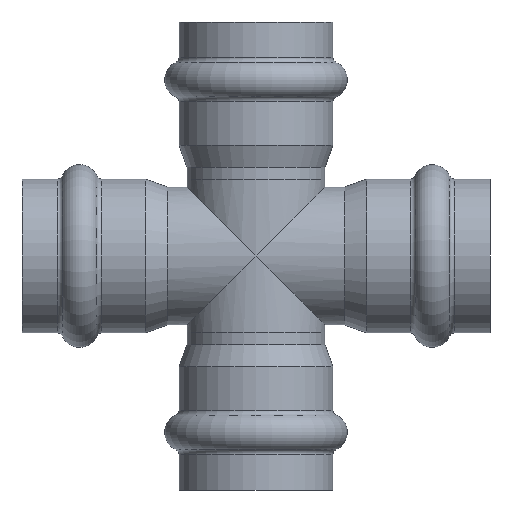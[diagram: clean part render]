
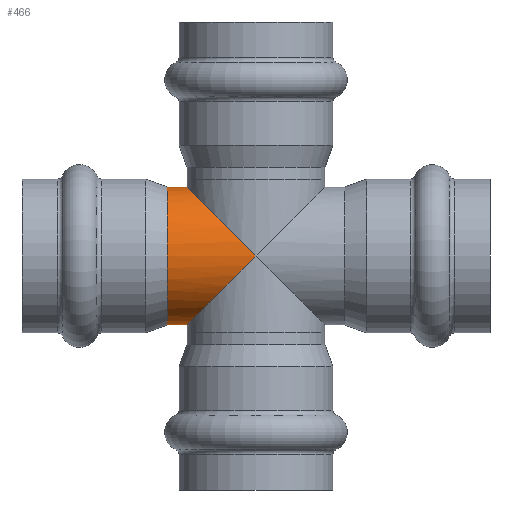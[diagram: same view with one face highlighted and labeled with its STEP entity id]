
A CAD part, left-side view. The second image highlights one B-rep face of the part: STEP entity #466.
In plain terms, the highlighted cylindrical face has radius 14 mm (diameter 28 mm), a full revolution.
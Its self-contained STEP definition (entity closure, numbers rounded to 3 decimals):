
#466=ADVANCED_FACE('',(#943,#945),#947,.T.);
#943=FACE_BOUND('',#944,.T.);
#944=EDGE_LOOP('',(#1342,#1343,#1344,#1345));
#945=FACE_OUTER_BOUND('',#946,.T.);
#946=EDGE_LOOP('',(#1346));
#947=CYLINDRICAL_SURFACE('',#948,14.);
#948=AXIS2_PLACEMENT_3D('',#949,#950,#951);
#949=CARTESIAN_POINT('',(0.,-18.022,0.));
#950=DIRECTION('',(0.,1.,0.));
#951=DIRECTION('',(0.,0.,1.));
#1342=ORIENTED_EDGE('',*,*,#1440,.F.);
#1343=ORIENTED_EDGE('',*,*,#1439,.F.);
#1344=ORIENTED_EDGE('',*,*,#1442,.F.);
#1345=ORIENTED_EDGE('',*,*,#1441,.F.);
#1346=ORIENTED_EDGE('',*,*,#1448,.F.);
#1439=EDGE_CURVE('',#1514,#1516,#1517,.F.);
#1440=EDGE_CURVE('',#1516,#1513,#1518,.F.);
#1441=EDGE_CURVE('',#1513,#1519,#1520,.F.);
#1442=EDGE_CURVE('',#1519,#1514,#1521,.F.);
#1448=EDGE_CURVE('',#1531,#1531,#1532,.T.);
#1513=VERTEX_POINT('',#1678);
#1514=VERTEX_POINT('',#1679);
#1516=VERTEX_POINT('',#1684);
#1517=(BOUNDED_CURVE()B_SPLINE_CURVE(3,
(#1685,#1686,#1687,#1688),
.UNSPECIFIED.,.F.,.F.)B_SPLINE_CURVE_WITH_KNOTS((4,4),
(0.,1.),
.UNSPECIFIED.)CURVE()GEOMETRIC_REPRESENTATION_ITEM()RATIONAL_B_SPLINE_CURVE((1.,
0.805,0.805,1.))REPRESENTATION_ITEM(''));
#1518=(BOUNDED_CURVE()B_SPLINE_CURVE(3,
(#1689,#1690,#1691,#1692),
.UNSPECIFIED.,.F.,.F.)B_SPLINE_CURVE_WITH_KNOTS((4,4),
(0.,1.),
.UNSPECIFIED.)CURVE()GEOMETRIC_REPRESENTATION_ITEM()RATIONAL_B_SPLINE_CURVE((1.,
0.805,0.805,1.))REPRESENTATION_ITEM(''));
#1519=VERTEX_POINT('',#1693);
#1520=(BOUNDED_CURVE()B_SPLINE_CURVE(3,
(#1694,#1695,#1696,#1697),
.UNSPECIFIED.,.F.,.F.)B_SPLINE_CURVE_WITH_KNOTS((4,4),
(0.,1.),
.UNSPECIFIED.)CURVE()GEOMETRIC_REPRESENTATION_ITEM()RATIONAL_B_SPLINE_CURVE((1.,
0.805,0.805,1.))REPRESENTATION_ITEM(''));
#1521=(BOUNDED_CURVE()B_SPLINE_CURVE(3,
(#1698,#1699,#1700,#1701),
.UNSPECIFIED.,.F.,.F.)B_SPLINE_CURVE_WITH_KNOTS((4,4),
(0.,1.),
.UNSPECIFIED.)CURVE()GEOMETRIC_REPRESENTATION_ITEM()RATIONAL_B_SPLINE_CURVE((1.,
0.805,0.805,1.))REPRESENTATION_ITEM(''));
#1531=VERTEX_POINT('',#1726);
#1532=CIRCLE('',#1727,14.);
#1678=CARTESIAN_POINT('',(14.,0.,0.));
#1679=CARTESIAN_POINT('',(-14.,0.,0.));
#1684=CARTESIAN_POINT('',(0.,14.,-14.));
#1685=CARTESIAN_POINT('',(0.,14.,-14.));
#1686=CARTESIAN_POINT('',(-8.201,14.,-14.));
#1687=CARTESIAN_POINT('',(-14.,8.201,-8.201));
#1688=CARTESIAN_POINT('',(-14.,0.,0.));
#1689=CARTESIAN_POINT('',(14.,0.,0.));
#1690=CARTESIAN_POINT('',(14.,8.201,-8.201));
#1691=CARTESIAN_POINT('',(8.201,14.,-14.));
#1692=CARTESIAN_POINT('',(0.,14.,-14.));
#1693=CARTESIAN_POINT('',(0.,14.,14.));
#1694=CARTESIAN_POINT('',(0.,14.,14.));
#1695=CARTESIAN_POINT('',(8.201,14.,14.));
#1696=CARTESIAN_POINT('',(14.,8.201,8.201));
#1697=CARTESIAN_POINT('',(14.,0.,0.));
#1698=CARTESIAN_POINT('',(-14.,0.,0.));
#1699=CARTESIAN_POINT('',(-14.,8.201,8.201));
#1700=CARTESIAN_POINT('',(-8.201,14.,14.));
#1701=CARTESIAN_POINT('',(0.,14.,14.));
#1726=CARTESIAN_POINT('',(0.,18.022,14.));
#1727=AXIS2_PLACEMENT_3D('',#1728,#1729,#1730);
#1728=CARTESIAN_POINT('',(0.,18.022,0.));
#1729=DIRECTION('',(0.,1.,0.));
#1730=DIRECTION('',(0.,0.,1.));
